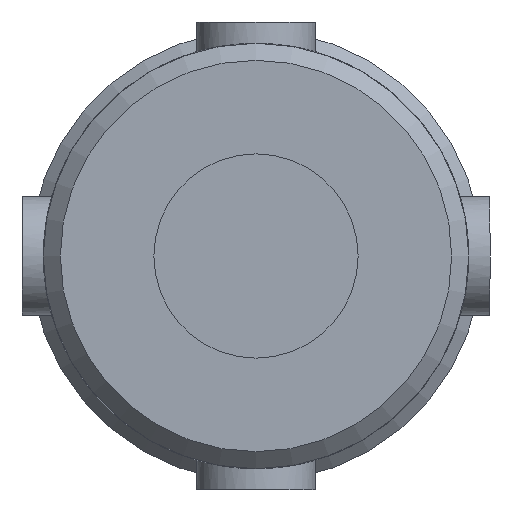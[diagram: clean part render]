
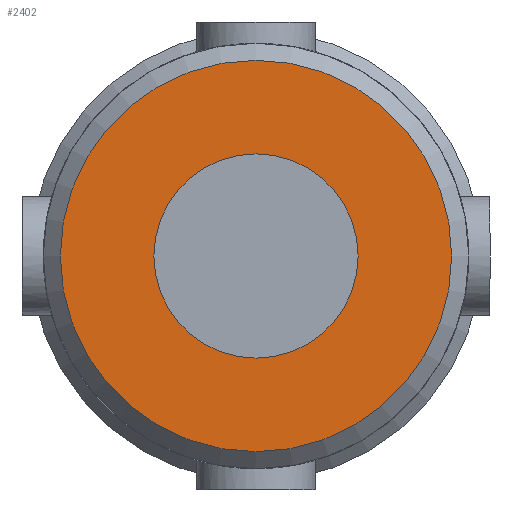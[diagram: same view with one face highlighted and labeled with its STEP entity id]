
A CAD part, left-side view. The second image highlights one B-rep face of the part: STEP entity #2402.
In plain terms, the highlighted planar face has unit normal (-1, 0, 0) as drawn and (0, -1, 0) by its records, which use the part's own axes.
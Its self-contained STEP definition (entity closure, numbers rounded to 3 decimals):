
#160=FACE_BOUND('',#546,.T.);
#243=PLANE('',#2645);
#371=FACE_OUTER_BOUND('',#545,.T.);
#545=EDGE_LOOP('',(#2112));
#546=EDGE_LOOP('',(#2113));
#973=CIRCLE('',#2640,6.);
#975=CIRCLE('',#2643,11.5);
#1183=VERTEX_POINT('',#4414);
#1185=VERTEX_POINT('',#4419);
#1500=EDGE_CURVE('',#1183,#1183,#973,.T.);
#1502=EDGE_CURVE('',#1185,#1185,#975,.T.);
#2112=ORIENTED_EDGE('',*,*,#1502,.F.);
#2113=ORIENTED_EDGE('',*,*,#1500,.T.);
#2402=ADVANCED_FACE('',(#371,#160),#243,.F.);
#2640=AXIS2_PLACEMENT_3D('',#4415,#3228,#3229);
#2643=AXIS2_PLACEMENT_3D('',#4420,#3234,#3235);
#2645=AXIS2_PLACEMENT_3D('',#4588,#3242,#3243);
#3228=DIRECTION('center_axis',(0.,1.,0.));
#3229=DIRECTION('ref_axis',(-1.,0.,0.));
#3234=DIRECTION('center_axis',(0.,1.,0.));
#3235=DIRECTION('ref_axis',(1.,0.,0.));
#3242=DIRECTION('center_axis',(0.,1.,0.));
#3243=DIRECTION('ref_axis',(0.,0.,1.));
#4414=CARTESIAN_POINT('',(6.,-34.5,0.));
#4415=CARTESIAN_POINT('Origin',(0.,-34.5,0.));
#4419=CARTESIAN_POINT('',(-11.5,-34.5,0.));
#4420=CARTESIAN_POINT('Origin',(0.,-34.5,0.));
#4588=CARTESIAN_POINT('Origin',(0.,-34.5,0.));
